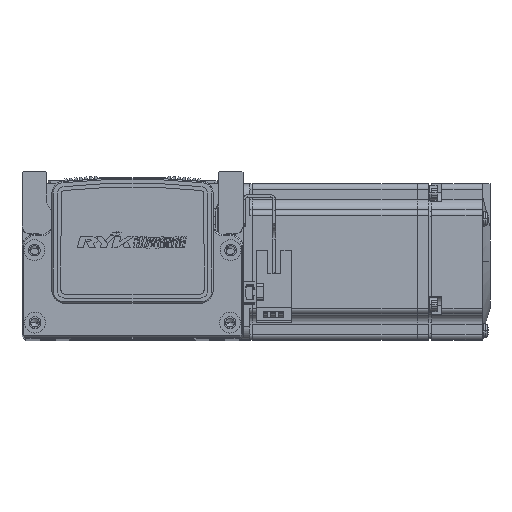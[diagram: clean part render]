
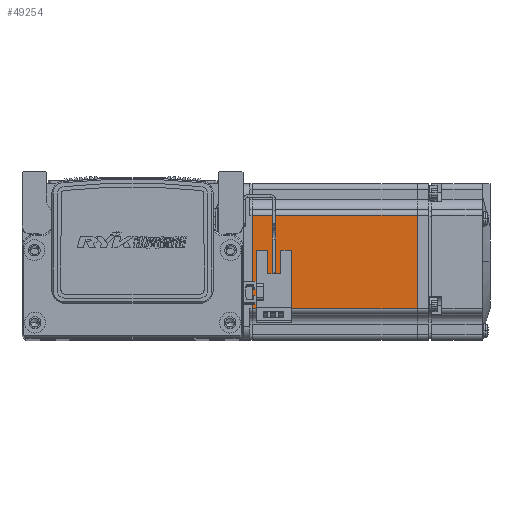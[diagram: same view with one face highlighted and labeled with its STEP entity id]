
A CAD part, top view. The second image highlights one B-rep face of the part: STEP entity #49254.
In plain terms, the highlighted planar face has unit normal (0, 0, 1) as drawn and (0, 0, -1) by its records, which use the part's own axes.
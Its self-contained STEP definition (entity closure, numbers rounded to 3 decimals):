
#3244 = VERTEX_POINT ( 'NONE', #50924 ) ;
#3297 = VERTEX_POINT ( 'NONE', #47377 ) ;
#3315 = VERTEX_POINT ( 'NONE', #47338 ) ;
#3316 = VERTEX_POINT ( 'NONE', #47351 ) ;
#9330 = EDGE_LOOP ( 'NONE', ( #10842, #10871, #10798, #10768 ) ) ;
#10768 = ORIENTED_EDGE ( 'NONE', *, *, #33056, .T. ) ;
#10798 = ORIENTED_EDGE ( 'NONE', *, *, #33086, .T. ) ;
#10842 = ORIENTED_EDGE ( 'NONE', *, *, #33091, .T. ) ;
#10871 = ORIENTED_EDGE ( 'NONE', *, *, #33042, .T. ) ;
#14892 = FACE_OUTER_BOUND ( 'NONE', #9330, .T. ) ;
#16165 = PLANE ( 'NONE',  #60371 ) ;
#16177 = CARTESIAN_POINT ( 'NONE',  ( -6.5, 25., -30. ) ) ;
#16193 = DIRECTION ( 'NONE',  ( 0., 0., -1. ) ) ;
#16201 = DIRECTION ( 'NONE',  ( -1., 0., 0. ) ) ;
#33042 = EDGE_CURVE ( 'NONE', #3297, #3315, #65328, .T. ) ;
#33056 = EDGE_CURVE ( 'NONE', #3316, #3244, #65349, .T. ) ;
#33086 = EDGE_CURVE ( 'NONE', #3315, #3316, #65404, .T. ) ;
#33091 = EDGE_CURVE ( 'NONE', #3244, #3297, #65384, .T. ) ;
#47338 = CARTESIAN_POINT ( 'NONE',  ( -70.95, -18., -30. ) ) ;
#47351 = CARTESIAN_POINT ( 'NONE',  ( -70.95, 18., -30. ) ) ;
#47377 = CARTESIAN_POINT ( 'NONE',  ( -7.75, -18., -30. ) ) ;
#49254 = ADVANCED_FACE ( 'NONE', ( #14892 ), #16165, .T. ) ;
#50924 = CARTESIAN_POINT ( 'NONE',  ( -7.75, 18., -30. ) ) ;
#60371 = AXIS2_PLACEMENT_3D ( 'NONE', #16177, #16193, #16201 ) ;
#64631 = CARTESIAN_POINT ( 'NONE',  ( -6.5, -18., -30. ) ) ;
#64634 = DIRECTION ( 'NONE',  ( -1., 0., 0. ) ) ;
#64673 = DIRECTION ( 'NONE',  ( 1., 0., 0. ) ) ;
#64694 = CARTESIAN_POINT ( 'NONE',  ( -6.5, 18., -30. ) ) ;
#64718 = CARTESIAN_POINT ( 'NONE',  ( -70.95, 25., -30. ) ) ;
#64722 = DIRECTION ( 'NONE',  ( 0., 1., 0. ) ) ;
#64747 = CARTESIAN_POINT ( 'NONE',  ( -7.75, 25., -30. ) ) ;
#64748 = DIRECTION ( 'NONE',  ( 0., -1., 0. ) ) ;
#65328 = LINE ( 'NONE', #64631, #65356 ) ;
#65339 = VECTOR ( 'NONE', #64673, 1000. ) ;
#65349 = LINE ( 'NONE', #64694, #65339 ) ;
#65356 = VECTOR ( 'NONE', #64634, 1000. ) ;
#65368 = VECTOR ( 'NONE', #64722, 1000. ) ;
#65384 = LINE ( 'NONE', #64747, #65388 ) ;
#65388 = VECTOR ( 'NONE', #64748, 1000. ) ;
#65404 = LINE ( 'NONE', #64718, #65368 ) ;
